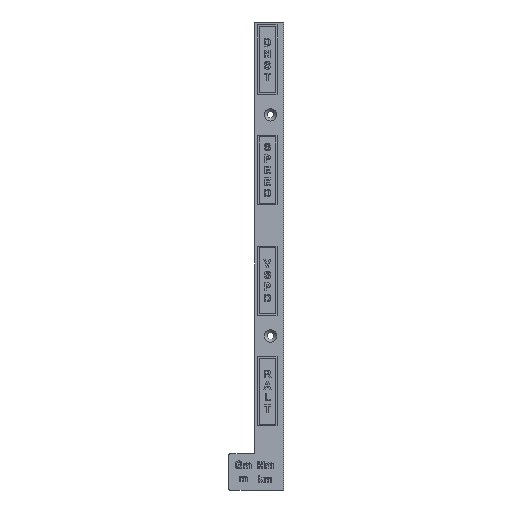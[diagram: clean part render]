
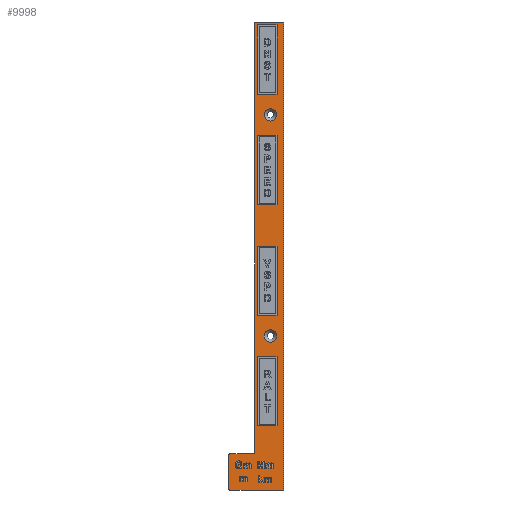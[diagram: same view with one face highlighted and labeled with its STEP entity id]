
A CAD part, front view. The second image highlights one B-rep face of the part: STEP entity #9998.
In plain terms, the highlighted planar face has unit normal (0, -1, 0).
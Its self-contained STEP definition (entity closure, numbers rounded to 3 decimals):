
#829=FACE_BOUND('',#1732,.T.);
#830=FACE_BOUND('',#1733,.T.);
#863=PLANE('',#10599);
#1165=FACE_OUTER_BOUND('',#1731,.T.);
#1731=EDGE_LOOP('',(#6913,#6914,#6915,#6916,#6917,#6918,#6919,#6920,#6921,
#6922));
#1732=EDGE_LOOP('',(#6923));
#1733=EDGE_LOOP('',(#6924));
#2327=LINE('',#12541,#3317);
#2331=LINE('',#12553,#3321);
#2334=LINE('',#12559,#3324);
#2335=LINE('',#12563,#3325);
#2336=LINE('',#12567,#3326);
#2337=LINE('',#12568,#3327);
#3317=VECTOR('',#10929,10.);
#3321=VECTOR('',#10941,10.);
#3324=VECTOR('',#10946,10.);
#3325=VECTOR('',#10949,10.);
#3326=VECTOR('',#10952,10.);
#3327=VECTOR('',#10953,10.);
#4301=CIRCLE('',#10582,4.217);
#4304=CIRCLE('',#10587,4.217);
#4307=CIRCLE('',#10592,1.);
#4310=CIRCLE('',#10597,1.);
#4311=CIRCLE('',#10600,1.);
#4312=CIRCLE('',#10601,1.);
#4315=VERTEX_POINT('',#12511);
#4318=VERTEX_POINT('',#12521);
#4321=VERTEX_POINT('',#12531);
#4322=VERTEX_POINT('',#12532);
#4325=VERTEX_POINT('',#12540);
#4328=VERTEX_POINT('',#12548);
#4329=VERTEX_POINT('',#12552);
#4331=VERTEX_POINT('',#12558);
#4332=VERTEX_POINT('',#12560);
#4333=VERTEX_POINT('',#12562);
#4334=VERTEX_POINT('',#12564);
#4335=VERTEX_POINT('',#12566);
#5341=EDGE_CURVE('',#4315,#4315,#4301,.T.);
#5346=EDGE_CURVE('',#4318,#4318,#4304,.T.);
#5351=EDGE_CURVE('',#4321,#4322,#4307,.T.);
#5355=EDGE_CURVE('',#4325,#4322,#2327,.T.);
#5359=EDGE_CURVE('',#4325,#4328,#4310,.T.);
#5361=EDGE_CURVE('',#4329,#4328,#2331,.T.);
#5364=EDGE_CURVE('',#4321,#4331,#2334,.T.);
#5365=EDGE_CURVE('',#4332,#4331,#4311,.T.);
#5366=EDGE_CURVE('',#4332,#4333,#2335,.T.);
#5367=EDGE_CURVE('',#4334,#4333,#4312,.T.);
#5368=EDGE_CURVE('',#4334,#4335,#2336,.T.);
#5369=EDGE_CURVE('',#4329,#4335,#2337,.T.);
#6913=ORIENTED_EDGE('',*,*,#5359,.F.);
#6914=ORIENTED_EDGE('',*,*,#5355,.T.);
#6915=ORIENTED_EDGE('',*,*,#5351,.F.);
#6916=ORIENTED_EDGE('',*,*,#5364,.T.);
#6917=ORIENTED_EDGE('',*,*,#5365,.F.);
#6918=ORIENTED_EDGE('',*,*,#5366,.T.);
#6919=ORIENTED_EDGE('',*,*,#5367,.F.);
#6920=ORIENTED_EDGE('',*,*,#5368,.T.);
#6921=ORIENTED_EDGE('',*,*,#5369,.F.);
#6922=ORIENTED_EDGE('',*,*,#5361,.T.);
#6923=ORIENTED_EDGE('',*,*,#5341,.T.);
#6924=ORIENTED_EDGE('',*,*,#5346,.T.);
#9998=ADVANCED_FACE('',(#1165,#829,#830),#863,.F.);
#10582=AXIS2_PLACEMENT_3D('',#12512,#10897,#10898);
#10587=AXIS2_PLACEMENT_3D('',#12522,#10909,#10910);
#10592=AXIS2_PLACEMENT_3D('',#12533,#10921,#10922);
#10597=AXIS2_PLACEMENT_3D('',#12549,#10936,#10937);
#10599=AXIS2_PLACEMENT_3D('',#12557,#10944,#10945);
#10600=AXIS2_PLACEMENT_3D('',#12561,#10947,#10948);
#10601=AXIS2_PLACEMENT_3D('',#12565,#10950,#10951);
#10897=DIRECTION('center_axis',(0.,1.,0.));
#10898=DIRECTION('ref_axis',(0.,0.,-1.));
#10909=DIRECTION('center_axis',(0.,1.,0.));
#10910=DIRECTION('ref_axis',(0.,0.,-1.));
#10921=DIRECTION('center_axis',(0.,-1.,0.));
#10922=DIRECTION('ref_axis',(0.707,0.,-0.707));
#10929=DIRECTION('',(0.,0.,-1.));
#10936=DIRECTION('center_axis',(0.,1.,0.));
#10937=DIRECTION('ref_axis',(-0.707,0.,0.707));
#10941=DIRECTION('',(-1.,0.,0.));
#10944=DIRECTION('center_axis',(0.,1.,0.));
#10945=DIRECTION('ref_axis',(1.,0.,0.));
#10946=DIRECTION('',(-1.,0.,0.));
#10947=DIRECTION('center_axis',(0.,1.,0.));
#10948=DIRECTION('ref_axis',(-0.707,0.,0.707));
#10949=DIRECTION('',(0.,0.,-1.));
#10950=DIRECTION('center_axis',(0.,1.,0.));
#10951=DIRECTION('ref_axis',(-0.707,0.,-0.707));
#10952=DIRECTION('',(1.,0.,0.));
#10953=DIRECTION('',(0.,0.,-1.));
#12511=CARTESIAN_POINT('',(48.06,0.,-33.284));
#12512=CARTESIAN_POINT('Origin',(48.06,0.,-37.5));
#12521=CARTESIAN_POINT('',(48.06,0.,-183.284));
#12522=CARTESIAN_POINT('Origin',(48.06,0.,-187.5));
#12531=CARTESIAN_POINT('',(36.5,0.,-267.5));
#12532=CARTESIAN_POINT('',(37.5,0.,-266.5));
#12533=CARTESIAN_POINT('Origin',(36.5,0.,-266.5));
#12540=CARTESIAN_POINT('',(37.5,0.,24.5));
#12541=CARTESIAN_POINT('',(37.5,0.,25.5));
#12548=CARTESIAN_POINT('',(38.5,0.,25.5));
#12549=CARTESIAN_POINT('Origin',(38.5,0.,24.5));
#12552=CARTESIAN_POINT('',(57.,0.,25.5));
#12553=CARTESIAN_POINT('',(57.,0.,25.5));
#12557=CARTESIAN_POINT('Origin',(38.25,0.,-133.25));
#12558=CARTESIAN_POINT('',(20.5,0.,-267.5));
#12559=CARTESIAN_POINT('',(37.5,0.,-267.5));
#12560=CARTESIAN_POINT('',(19.5,0.,-268.5));
#12561=CARTESIAN_POINT('Origin',(20.5,0.,-268.5));
#12562=CARTESIAN_POINT('',(19.5,0.,-291.));
#12563=CARTESIAN_POINT('',(19.5,0.,-267.5));
#12564=CARTESIAN_POINT('',(20.5,0.,-292.));
#12565=CARTESIAN_POINT('Origin',(20.5,0.,-291.));
#12566=CARTESIAN_POINT('',(57.,0.,-292.));
#12567=CARTESIAN_POINT('',(19.5,0.,-292.));
#12568=CARTESIAN_POINT('',(57.,0.,40.));
